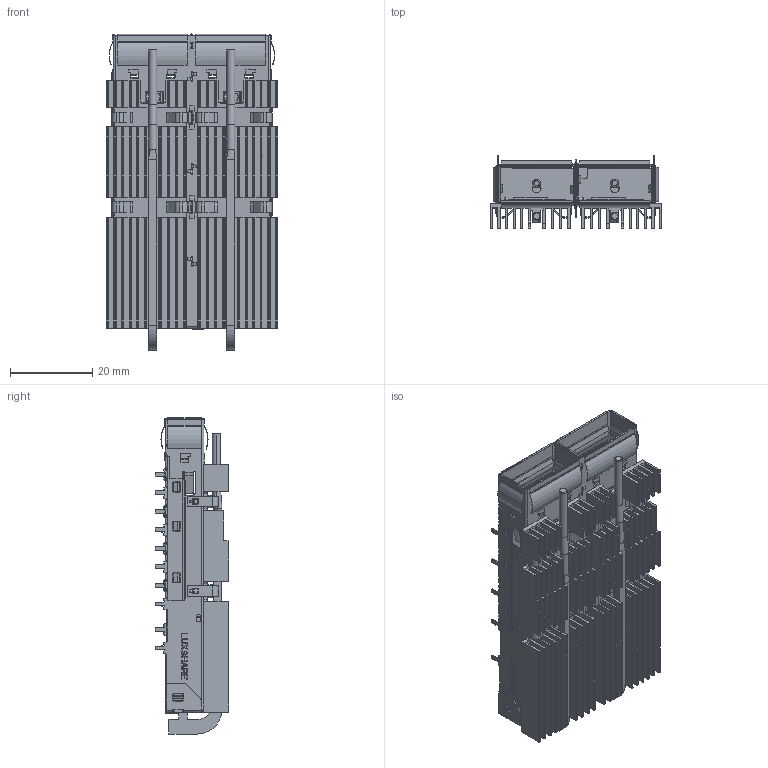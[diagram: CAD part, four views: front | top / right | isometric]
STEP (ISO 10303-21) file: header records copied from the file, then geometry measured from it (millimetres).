
FILE_DESCRIPTION((''),'2;1');
FILE_NAME('QDD1X2CAGE-220303_ASM','2022-06-01T17:13:26',('C080069'),(''),'CREO PARAMETRIC BY PTC INC, 2019471','CREO PARAMETRIC BY PTC INC, 2019471','');
FILE_SCHEMA(('CONFIG_CONTROL_DESIGN'));
Products named in the file (1): QDD1X2CAGE-220303_ASM
Bounding box: 41.71 x 17.85 x 76.83 mm (x, y, z)
Volume: 7977.7 mm3; surface area: 29897.8 mm2
Topology: 1 solids, 3 shells, 3139 faces, 9263 edges, 5999 vertices
Faces by surface type: plane 1720, cylinder 1305, torus 44, sphere 32, bspline 30, cone 8
Entity records: 106733 total; most frequent: CARTESIAN_POINT 20963, ORIENTED_EDGE 18446, DIRECTION 17897, EDGE_CURVE 9223, VECTOR 6157, LINE 6157, VERTEX_POINT 5999, AXIS2_PLACEMENT_3D 5870
